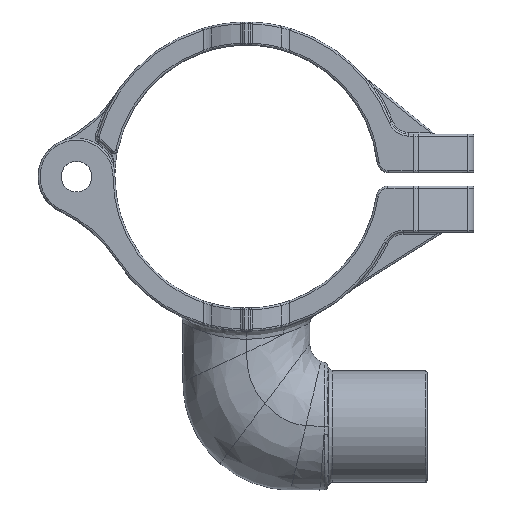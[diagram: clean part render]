
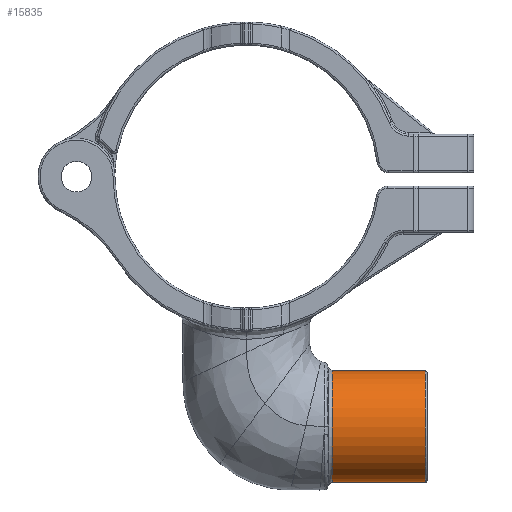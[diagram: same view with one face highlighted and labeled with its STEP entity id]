
A CAD part, top view. The second image highlights one B-rep face of the part: STEP entity #15835.
In plain terms, the highlighted cylindrical face has radius 14.673 mm (diameter 29.345 mm), a partial arc.
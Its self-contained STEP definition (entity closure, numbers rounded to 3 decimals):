
#5543=CARTESIAN_POINT('',(22.532,-65.774,0.));
#5544=DIRECTION('',(1.,0.,0.));
#5545=DIRECTION('',(0.,1.,0.));
#5546=AXIS2_PLACEMENT_3D('',#5543,#5544,#5545);
#5551=CARTESIAN_POINT('',(22.532,-65.774,0.));
#5552=DIRECTION('',(1.,0.,0.));
#5553=DIRECTION('',(0.,1.,0.019));
#5554=AXIS2_PLACEMENT_3D('',#5551,#5552,#5553);
#5575=DIRECTION('',(-1.,0.,0.));
#5576=VECTOR('',#5575,24.521);
#5577=CARTESIAN_POINT('',(47.054,-80.446,0.));
#5578=LINE('',#5577,#5576);
#5582=DIRECTION('',(1.,0.,0.));
#5583=VECTOR('',#5582,24.521);
#5584=CARTESIAN_POINT('',(22.532,-51.101,0.));
#5585=LINE('',#5584,#5583);
#5629=CARTESIAN_POINT('',(47.054,-65.774,0.));
#5630=DIRECTION('',(-1.,0.,0.));
#5631=DIRECTION('',(0.,-1.,0.));
#5632=AXIS2_PLACEMENT_3D('',#5629,#5630,#5631);
#5637=CARTESIAN_POINT('',(47.054,-65.774,0.));
#5638=DIRECTION('',(-1.,0.,0.));
#5639=DIRECTION('',(0.,1.,0.018));
#5640=AXIS2_PLACEMENT_3D('',#5637,#5638,#5639);
#8872=CARTESIAN_POINT('',(22.532,-80.446,0.));
#8873=VERTEX_POINT('',#8872);
#8876=CARTESIAN_POINT('',(22.532,-51.101,0.));
#8877=VERTEX_POINT('',#8876);
#8878=CARTESIAN_POINT('',(22.532,-51.104,
0.278));
#8879=VERTEX_POINT('',#8878);
#8880=CARTESIAN_POINT('',(47.054,-80.446,0.));
#8881=VERTEX_POINT('',#8880);
#8882=CARTESIAN_POINT('',(47.054,-51.101,0.));
#8883=VERTEX_POINT('',#8882);
#8884=CARTESIAN_POINT('',(47.054,-51.104,0.268));
#8885=VERTEX_POINT('',#8884);
#15818=CARTESIAN_POINT('',(15.685,-65.774,0.));
#15819=DIRECTION('',(1.,0.,0.));
#15820=DIRECTION('',(0.,1.,0.));
#15821=AXIS2_PLACEMENT_3D('',#15818,#15819,#15820);
#15822=CYLINDRICAL_SURFACE('',#15821,14.673);
#15824=ORIENTED_EDGE('',*,*,#15823,.T.);
#15825=ORIENTED_EDGE('',*,*,#15810,.F.);
#15826=ORIENTED_EDGE('',*,*,#15808,.F.);
#15828=ORIENTED_EDGE('',*,*,#15827,.T.);
#15830=ORIENTED_EDGE('',*,*,#15829,.F.);
#15832=ORIENTED_EDGE('',*,*,#15831,.F.);
#15833=EDGE_LOOP('',(#15824,#15825,#15826,#15828,#15830,#15832));
#15834=FACE_OUTER_BOUND('',#15833,.F.);
#5547=CIRCLE('',#5546,14.673);
#5555=CIRCLE('',#5554,14.673);
#5633=CIRCLE('',#5632,14.673);
#5641=CIRCLE('',#5640,14.673);
#15808=EDGE_CURVE('',#8877,#8879,#5547,.T.);
#15810=EDGE_CURVE('',#8879,#8873,#5555,.T.);
#15823=EDGE_CURVE('',#8881,#8873,#5578,.T.);
#15827=EDGE_CURVE('',#8877,#8883,#5585,.T.);
#15829=EDGE_CURVE('',#8885,#8883,#5641,.T.);
#15831=EDGE_CURVE('',#8881,#8885,#5633,.T.);
#15835=ADVANCED_FACE('',(#15834),#15822,.T.);
